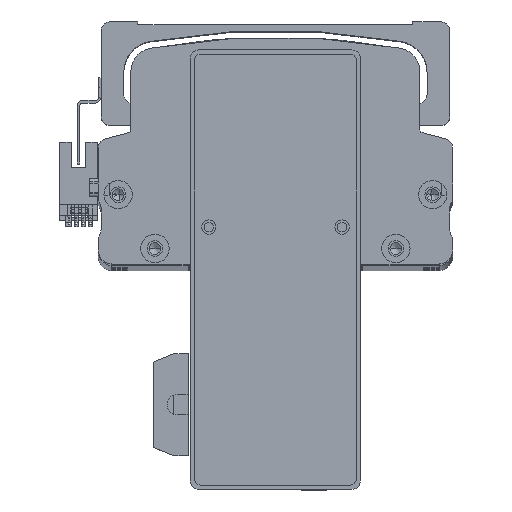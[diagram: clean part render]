
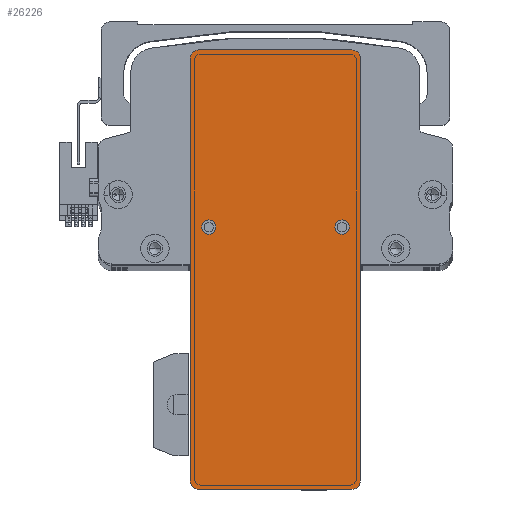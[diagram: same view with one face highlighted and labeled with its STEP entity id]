
A CAD part, top view. The second image highlights one B-rep face of the part: STEP entity #26226.
In plain terms, the highlighted planar face has unit normal (0, 0, 1) as drawn and (0, 0, -1) by its records, which use the part's own axes.
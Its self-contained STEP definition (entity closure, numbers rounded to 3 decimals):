
#95 = CARTESIAN_POINT ( 'NONE',  ( 77.5, -30., 0. ) ) ;
#136 = EDGE_CURVE ( 'NONE', #34717, #24813, #42547, .T. ) ;
#647 = VERTEX_POINT ( 'NONE', #13492 ) ;
#1525 = AXIS2_PLACEMENT_3D ( 'NONE', #27867, #72808, #34386 ) ;
#2247 = EDGE_CURVE ( 'NONE', #52270, #43170, #50721, .T. ) ;
#2979 = CARTESIAN_POINT ( 'NONE',  ( 77.5, 30., 0. ) ) ;
#5489 = EDGE_CURVE ( 'NONE', #61894, #647, #46775, .T. ) ;
#5876 = DIRECTION ( 'NONE',  ( -1., 0., 0. ) ) ;
#6517 = DIRECTION ( 'NONE',  ( 0., 1., 0. ) ) ;
#7690 = EDGE_CURVE ( 'NONE', #78959, #24813, #72520, .T. ) ;
#8260 = VECTOR ( 'NONE', #20878, 1000. ) ;
#9915 = EDGE_CURVE ( 'NONE', #61894, #68633, #71080, .T. ) ;
#9958 = ORIENTED_EDGE ( 'NONE', *, *, #79334, .F. ) ;
#10106 = CARTESIAN_POINT ( 'NONE',  ( -74.5, -27., 0. ) ) ;
#10581 = EDGE_LOOP ( 'NONE', ( #15987, #46447, #57385, #24379, #48443, #20605, #59493, #65212 ) ) ;
#11483 = CARTESIAN_POINT ( 'NONE',  ( -77.5, -30., 0. ) ) ;
#12313 = CARTESIAN_POINT ( 'NONE',  ( -74.5, -30., 0. ) ) ;
#13155 = CARTESIAN_POINT ( 'NONE',  ( -74.5, 27., 0. ) ) ;
#13389 = ORIENTED_EDGE ( 'NONE', *, *, #2247, .F. ) ;
#13492 = CARTESIAN_POINT ( 'NONE',  ( -77.5, -27., 0. ) ) ;
#15987 = ORIENTED_EDGE ( 'NONE', *, *, #19399, .F. ) ;
#16574 = DIRECTION ( 'NONE',  ( 1., 0., 0. ) ) ;
#17134 = CARTESIAN_POINT ( 'NONE',  ( -74.5, 30., 0. ) ) ;
#19399 = EDGE_CURVE ( 'NONE', #78959, #73232, #40053, .T. ) ;
#19623 = DIRECTION ( 'NONE',  ( 1., 0., 0. ) ) ;
#20605 = ORIENTED_EDGE ( 'NONE', *, *, #9915, .T. ) ;
#20878 = DIRECTION ( 'NONE',  ( 1., 0., 0. ) ) ;
#21786 = DIRECTION ( 'NONE',  ( 0., 0., -1. ) ) ;
#22084 = CARTESIAN_POINT ( 'NONE',  ( 74.5, 30., 0. ) ) ;
#22882 = AXIS2_PLACEMENT_3D ( 'NONE', #33536, #78410, #39979 ) ;
#24379 = ORIENTED_EDGE ( 'NONE', *, *, #39944, .T. ) ;
#24472 = ORIENTED_EDGE ( 'NONE', *, *, #37749, .F. ) ;
#24813 = VERTEX_POINT ( 'NONE', #49152 ) ;
#26226 = ADVANCED_FACE ( 'NONE', ( #64670, #49604, #30509 ), #39705, .F. ) ;
#27404 = CARTESIAN_POINT ( 'NONE',  ( 77.5, -30., 0. ) ) ;
#27867 = CARTESIAN_POINT ( 'NONE',  ( 74.5, -27., 0. ) ) ;
#29702 = VECTOR ( 'NONE', #30965, 1000. ) ;
#30145 = DIRECTION ( 'NONE',  ( 0., 0., -1. ) ) ;
#30324 = EDGE_CURVE ( 'NONE', #52706, #68633, #51205, .T. ) ;
#30509 = FACE_OUTER_BOUND ( 'NONE', #10581, .T. ) ;
#30965 = DIRECTION ( 'NONE',  ( 0., -1., 0. ) ) ;
#31116 = AXIS2_PLACEMENT_3D ( 'NONE', #60332, #21786, #66839 ) ;
#31395 = DIRECTION ( 'NONE',  ( 0., 0., -1. ) ) ;
#31412 = CARTESIAN_POINT ( 'NONE',  ( 15., -23.5, 0. ) ) ;
#32657 = CIRCLE ( 'NONE', #62933, 3. ) ;
#33536 = CARTESIAN_POINT ( 'NONE',  ( 0., 0., 0. ) ) ;
#34386 = DIRECTION ( 'NONE',  ( 1., 0., 0. ) ) ;
#34717 = VERTEX_POINT ( 'NONE', #12313 ) ;
#35122 = DIRECTION ( 'NONE',  ( -1., 0., 0. ) ) ;
#36240 = AXIS2_PLACEMENT_3D ( 'NONE', #82924, #44428, #5876 ) ;
#37749 = EDGE_CURVE ( 'NONE', #43170, #52270, #58879, .T. ) ;
#37890 = DIRECTION ( 'NONE',  ( -1., 0., 0. ) ) ;
#39705 = PLANE ( 'NONE',  #22882 ) ;
#39944 = EDGE_CURVE ( 'NONE', #34717, #647, #32657, .T. ) ;
#39979 = DIRECTION ( 'NONE',  ( 1., 0., 0. ) ) ;
#40053 = LINE ( 'NONE', #95, #47001 ) ;
#41895 = AXIS2_PLACEMENT_3D ( 'NONE', #68637, #30145, #75065 ) ;
#42547 = LINE ( 'NONE', #27404, #8260 ) ;
#43170 = VERTEX_POINT ( 'NONE', #47924 ) ;
#44364 = CARTESIAN_POINT ( 'NONE',  ( 12.5, 23.5, 0. ) ) ;
#44428 = DIRECTION ( 'NONE',  ( 0., 0., -1. ) ) ;
#46447 = ORIENTED_EDGE ( 'NONE', *, *, #7690, .T. ) ;
#46578 = CIRCLE ( 'NONE', #65570, 2.5 ) ;
#46775 = LINE ( 'NONE', #11483, #29702 ) ;
#47001 = VECTOR ( 'NONE', #6517, 1000. ) ;
#47924 = CARTESIAN_POINT ( 'NONE',  ( 12.5, -23.5, 0. ) ) ;
#48443 = ORIENTED_EDGE ( 'NONE', *, *, #5489, .F. ) ;
#49152 = CARTESIAN_POINT ( 'NONE',  ( 74.5, -30., 0. ) ) ;
#49604 = FACE_BOUND ( 'NONE', #61952, .T. ) ;
#50721 = CIRCLE ( 'NONE', #36240, 2.5 ) ;
#51205 = LINE ( 'NONE', #2979, #83391 ) ;
#52270 = VERTEX_POINT ( 'NONE', #80055 ) ;
#52637 = EDGE_CURVE ( 'NONE', #64730, #68104, #60352, .T. ) ;
#52706 = VERTEX_POINT ( 'NONE', #22084 ) ;
#55069 = DIRECTION ( 'NONE',  ( 0., 0., -1. ) ) ;
#55560 = ORIENTED_EDGE ( 'NONE', *, *, #52637, .F. ) ;
#57168 = AXIS2_PLACEMENT_3D ( 'NONE', #13155, #58160, #19623 ) ;
#57385 = ORIENTED_EDGE ( 'NONE', *, *, #136, .F. ) ;
#57386 = CARTESIAN_POINT ( 'NONE',  ( 17.5, 23.5, 0. ) ) ;
#58160 = DIRECTION ( 'NONE',  ( 0., 0., -1. ) ) ;
#58879 = CIRCLE ( 'NONE', #67657, 2.5 ) ;
#59179 = EDGE_CURVE ( 'NONE', #52706, #73232, #74122, .T. ) ;
#59493 = ORIENTED_EDGE ( 'NONE', *, *, #30324, .F. ) ;
#60332 = CARTESIAN_POINT ( 'NONE',  ( 15., 23.5, 0. ) ) ;
#60352 = CIRCLE ( 'NONE', #31116, 2.5 ) ;
#61894 = VERTEX_POINT ( 'NONE', #80455 ) ;
#61952 = EDGE_LOOP ( 'NONE', ( #24472, #13389 ) ) ;
#62933 = AXIS2_PLACEMENT_3D ( 'NONE', #10106, #55069, #16574 ) ;
#64670 = FACE_BOUND ( 'NONE', #79904, .T. ) ;
#64730 = VERTEX_POINT ( 'NONE', #57386 ) ;
#65212 = ORIENTED_EDGE ( 'NONE', *, *, #59179, .T. ) ;
#65570 = AXIS2_PLACEMENT_3D ( 'NONE', #69844, #31395, #76282 ) ;
#66839 = DIRECTION ( 'NONE',  ( -1., 0., 0. ) ) ;
#67657 = AXIS2_PLACEMENT_3D ( 'NONE', #31412, #76298, #37890 ) ;
#68104 = VERTEX_POINT ( 'NONE', #44364 ) ;
#68633 = VERTEX_POINT ( 'NONE', #17134 ) ;
#68637 = CARTESIAN_POINT ( 'NONE',  ( 74.5, 27., 0. ) ) ;
#69844 = CARTESIAN_POINT ( 'NONE',  ( 15., 23.5, 0. ) ) ;
#71080 = CIRCLE ( 'NONE', #57168, 3. ) ;
#71270 = CARTESIAN_POINT ( 'NONE',  ( 77.5, -27., 0. ) ) ;
#72520 = CIRCLE ( 'NONE', #1525, 3. ) ;
#72808 = DIRECTION ( 'NONE',  ( 0., 0., -1. ) ) ;
#73232 = VERTEX_POINT ( 'NONE', #76976 ) ;
#74122 = CIRCLE ( 'NONE', #41895, 3. ) ;
#75065 = DIRECTION ( 'NONE',  ( 1., 0., 0. ) ) ;
#76282 = DIRECTION ( 'NONE',  ( -1., 0., 0. ) ) ;
#76298 = DIRECTION ( 'NONE',  ( 0., 0., -1. ) ) ;
#76976 = CARTESIAN_POINT ( 'NONE',  ( 77.5, 27., 0. ) ) ;
#78410 = DIRECTION ( 'NONE',  ( 0., 0., 1. ) ) ;
#78959 = VERTEX_POINT ( 'NONE', #71270 ) ;
#79334 = EDGE_CURVE ( 'NONE', #68104, #64730, #46578, .T. ) ;
#79904 = EDGE_LOOP ( 'NONE', ( #9958, #55560 ) ) ;
#80055 = CARTESIAN_POINT ( 'NONE',  ( 17.5, -23.5, 0. ) ) ;
#80455 = CARTESIAN_POINT ( 'NONE',  ( -77.5, 27., 0. ) ) ;
#82924 = CARTESIAN_POINT ( 'NONE',  ( 15., -23.5, 0. ) ) ;
#83391 = VECTOR ( 'NONE', #35122, 1000. ) ;
